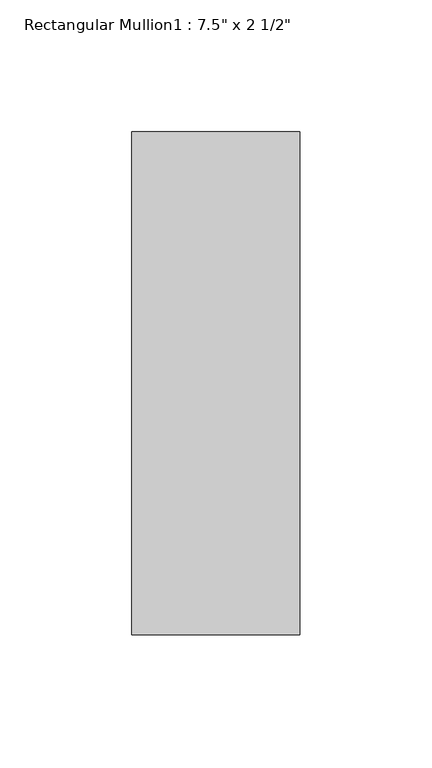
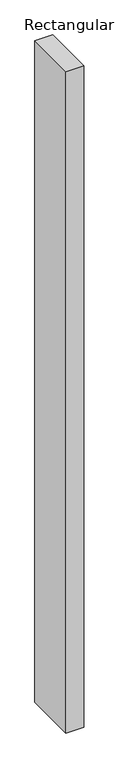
"""IFC4 building model written with IfcOpenShell, lengths in millimetres: member geometry."""

from ifc_helpers import new_model, si_unit, frame, origin, place, context, project, spatial, polyline, outline, extrude, source, transform, mapped, element, save


def member_4a2116bb(model_context):
    return source(origin(), model_context, "Body", "SweptSolid", [
        extrude(outline(polyline([(-63.5, -165.1), (-63.5, 25.4), (0.0, 25.4), (0.0, -165.1), (-63.5, -165.1)])), frame((0.0, 0.0, -2482.85), z_axis=(0.0, 0.0, 1.0), x_axis=(1.0, 0.0, 0.0)), (0.0, 0.0, 1.0), 2482.85),
    ])


if __name__ == "__main__":
    model = new_model("IFC4")
    model_context = context("Model", 3, world=origin())
    ifc_project = project(units=[si_unit("LENGTHUNIT", "METRE", prefix="MILLI")], contexts=[model_context])
    site = spatial("IfcSite", under=ifc_project)
    building = spatial("IfcBuilding", under=site)
    placement = place(None, origin())
    member_shape = member_4a2116bb(model_context)
    element("IfcMember", 1, ObjectType="Rectangular Mullion1 : 7.5\" x 2 1/2\"", at=placement, inside=building, context=model_context, shape_type="MappedRepresentation", body=[
        mapped(member_shape, transform((0.0, 0.0, 0.0), x_axis=(1.0, 0.0, 0.0), y_axis=(0.0, 1.0, 0.0), z_axis=(0.0, 0.0, 1.0))),
    ])
    save(model, "model.ifc")
